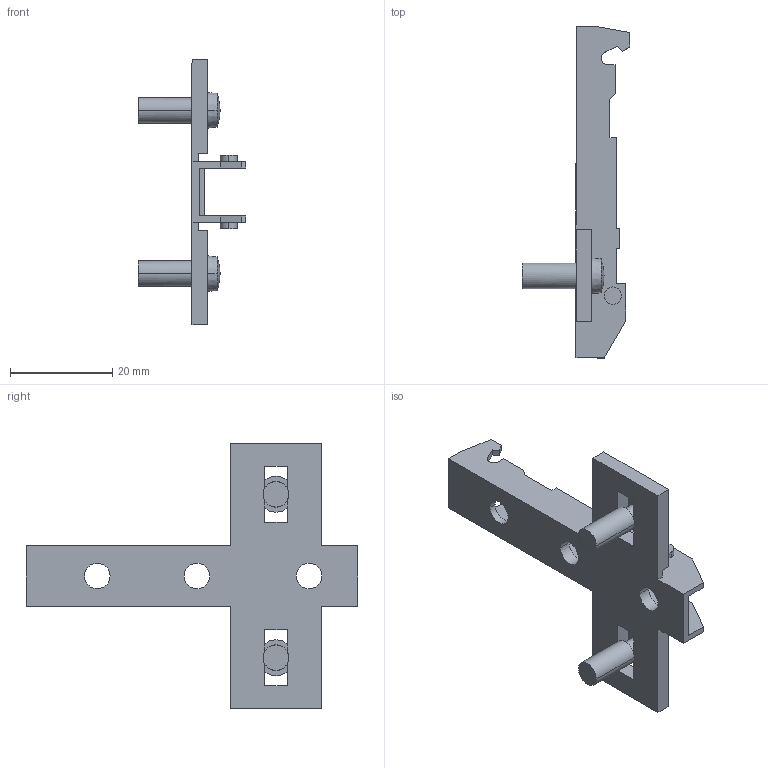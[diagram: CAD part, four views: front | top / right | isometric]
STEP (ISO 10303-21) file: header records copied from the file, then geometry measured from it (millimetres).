
FILE_DESCRIPTION (( 'STEP AP214' ), '1' );
FILE_NAME ('Eco Kreuzmontageplatte LR28_32_Dübel 5mm_lang_H00.step', '2010-11-18T10:07:22', ( 'grass' ), ( '' ), 'SwSTEP 2.0', 'SolidWorks 2010', '' );
FILE_SCHEMA (( 'AUTOMOTIVE_DESIGN' ));
Length unit declared in the file: millimetre
Products named in the file (1): Eco Kreuzmontageplatte LR28_32_Dübel 5mm_lang_H00
Bounding box: 21 x 65 x 52 mm (x, y, z)
Volume: 4692.7 mm3; surface area: 5890.8 mm2
Topology: 1 solids, 1 shells, 104 faces, 310 edges, 202 vertices
Faces by surface type: plane 76, cylinder 20, sphere 4, cone 4
Entity records: 3552 total; most frequent: ORIENTED_EDGE 620, CARTESIAN_POINT 617, DIRECTION 592, EDGE_CURVE 310, LINE 238, VECTOR 238, VERTEX_POINT 202, AXIS2_PLACEMENT_3D 177
